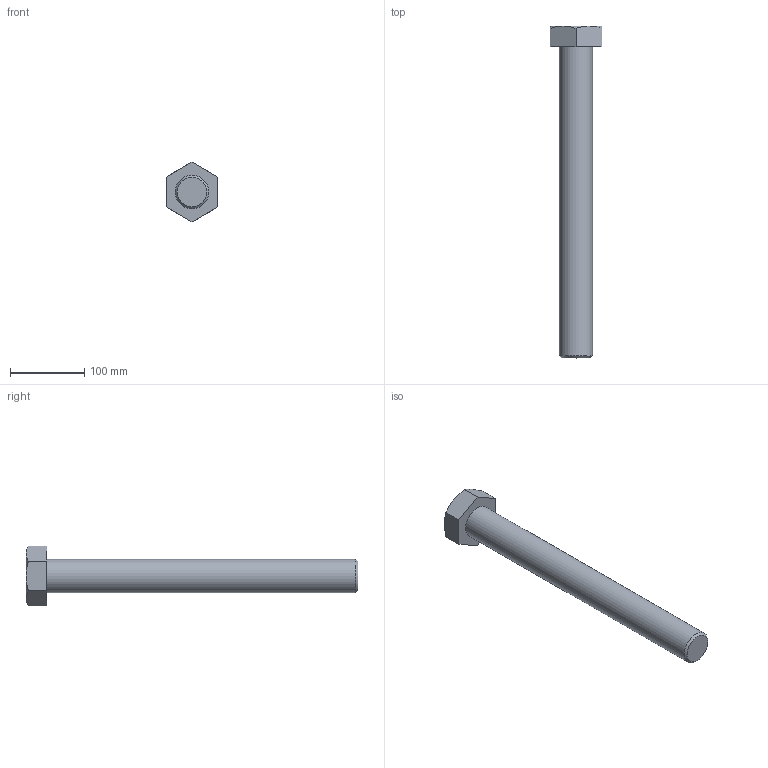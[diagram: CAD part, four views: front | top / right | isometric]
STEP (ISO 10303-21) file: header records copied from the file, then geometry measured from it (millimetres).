
FILE_DESCRIPTION(/* description */ (''),/* implementation_level */ '2;1');
FILE_NAME(/* name */ 'C:\Users\unitec\Documents\Inventor\各種小物\JIS\JIS B 1180 六角ボルト 等級C\hbc45\M45x420.stp',/* time_stamp */ '2015-02-13T14:58:21+09:00',/* author */ ('unitec'),/* organization */ (''),/* preprocessor_version */ 'ST-DEVELOPER v15.2',/* originating_system */ 'Autodesk Inventor 2014',/* authorisation */ '');
FILE_SCHEMA (('AUTOMOTIVE_DESIGN { 1 0 10303 214 3 1 1 }'));
Length unit declared in the file: millimetre
Products named in the file (1): M45x420
Bounding box: 70 x 448 x 80.83 mm (x, y, z)
Volume: 785911 mm3; surface area: 74215.4 mm2
Topology: 1 solids, 1 shells, 17 faces, 35 edges, 21 vertices
Faces by surface type: plane 9, cone 7, cylinder 1
Full cylindrical faces by diameter (mm): 45 x1
Entity records: 441 total; most frequent: CARTESIAN_POINT 96, ORIENTED_EDGE 66, DIRECTION 66, EDGE_CURVE 33, AXIS2_PLACEMENT_3D 27, VERTEX_POINT 21, EDGE_LOOP 20, ADVANCED_FACE 17
